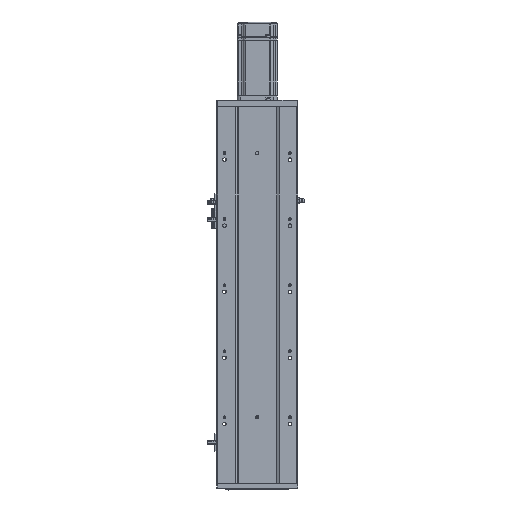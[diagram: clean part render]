
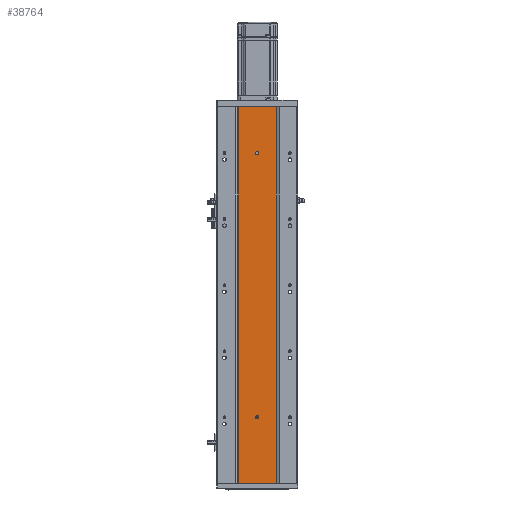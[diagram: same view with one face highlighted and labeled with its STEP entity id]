
A CAD part, front view. The second image highlights one B-rep face of the part: STEP entity #38764.
In plain terms, the highlighted planar face has unit normal (0, -1, 0).
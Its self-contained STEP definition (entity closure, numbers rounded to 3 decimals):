
#1704 = VERTEX_POINT ( 'NONE', #43092 ) ;
#4300 = EDGE_CURVE ( 'NONE', #7911, #1704, #17610, .T. ) ;
#4858 = ORIENTED_EDGE ( 'NONE', *, *, #20964, .F. ) ;
#6358 = VERTEX_POINT ( 'NONE', #77055 ) ;
#6888 = EDGE_CURVE ( 'NONE', #55024, #6358, #25675, .T. ) ;
#7850 = DIRECTION ( 'NONE',  ( 0., 0., -1. ) ) ;
#7911 = VERTEX_POINT ( 'NONE', #61693 ) ;
#8142 = VERTEX_POINT ( 'NONE', #41784 ) ;
#8458 = VECTOR ( 'NONE', #52645, 1000. ) ;
#8958 = EDGE_LOOP ( 'NONE', ( #40996, #40334, #4858, #64754 ) ) ;
#9150 = LINE ( 'NONE', #66443, #37952 ) ;
#10202 = DIRECTION ( 'NONE',  ( -1., 0., 0. ) ) ;
#11526 = FACE_BOUND ( 'NONE', #70303, .T. ) ;
#12188 = CARTESIAN_POINT ( 'NONE',  ( 134.998, 50.307, 102.5 ) ) ;
#12816 = VERTEX_POINT ( 'NONE', #59966 ) ;
#13770 = CARTESIAN_POINT ( 'NONE',  ( 134.998, 50.307, 500. ) ) ;
#16361 = CARTESIAN_POINT ( 'NONE',  ( 105.998, 50.307, 570. ) ) ;
#17610 = LINE ( 'NONE', #16361, #18642 ) ;
#18642 = VECTOR ( 'NONE', #78012, 1000. ) ;
#20458 = AXIS2_PLACEMENT_3D ( 'NONE', #71896, #57862, #50452 ) ;
#20915 = DIRECTION ( 'NONE',  ( 0., 0., -1. ) ) ;
#20964 = EDGE_CURVE ( 'NONE', #7911, #12816, #9150, .T. ) ;
#21875 = CARTESIAN_POINT ( 'NONE',  ( 134.998, 50.307, 502.5 ) ) ;
#23384 = AXIS2_PLACEMENT_3D ( 'NONE', #76664, #34993, #63000 ) ;
#24361 = CARTESIAN_POINT ( 'NONE',  ( 0., 50.307, 0. ) ) ;
#24845 = AXIS2_PLACEMENT_3D ( 'NONE', #50700, #77816, #10202 ) ;
#25483 = EDGE_LOOP ( 'NONE', ( #54965, #27563 ) ) ;
#25675 = CIRCLE ( 'NONE', #20458, 2.5 ) ;
#25977 = CIRCLE ( 'NONE', #62230, 2.5 ) ;
#27563 = ORIENTED_EDGE ( 'NONE', *, *, #6888, .F. ) ;
#33336 = DIRECTION ( 'NONE',  ( 1., 0., 0. ) ) ;
#34958 = DIRECTION ( 'NONE',  ( 0., -1., 0. ) ) ;
#34993 = DIRECTION ( 'NONE',  ( 0., -1., 0. ) ) ;
#37320 = AXIS2_PLACEMENT_3D ( 'NONE', #13770, #61740, #20915 ) ;
#37952 = VECTOR ( 'NONE', #33336, 1000. ) ;
#38764 = ADVANCED_FACE ( 'NONE', ( #82957, #11526, #77576 ), #58737, .F. ) ;
#40334 = ORIENTED_EDGE ( 'NONE', *, *, #46777, .F. ) ;
#40996 = ORIENTED_EDGE ( 'NONE', *, *, #58922, .T. ) ;
#41784 = CARTESIAN_POINT ( 'NONE',  ( 163.998, 50.307, 0. ) ) ;
#43092 = CARTESIAN_POINT ( 'NONE',  ( 105.998, 50.307, 0. ) ) ;
#43785 = EDGE_CURVE ( 'NONE', #45671, #63380, #67640, .T. ) ;
#45520 = CARTESIAN_POINT ( 'NONE',  ( 163.998, 50.307, 570. ) ) ;
#45671 = VERTEX_POINT ( 'NONE', #85034 ) ;
#46777 = EDGE_CURVE ( 'NONE', #12816, #8142, #80931, .T. ) ;
#48574 = ORIENTED_EDGE ( 'NONE', *, *, #60596, .F. ) ;
#49737 = LINE ( 'NONE', #24361, #65740 ) ;
#50452 = DIRECTION ( 'NONE',  ( 0., 0., -1. ) ) ;
#50700 = CARTESIAN_POINT ( 'NONE',  ( 0., 50.307, 570. ) ) ;
#52645 = DIRECTION ( 'NONE',  ( 0., 0., -1. ) ) ;
#54266 = ORIENTED_EDGE ( 'NONE', *, *, #43785, .F. ) ;
#54965 = ORIENTED_EDGE ( 'NONE', *, *, #73262, .F. ) ;
#55024 = VERTEX_POINT ( 'NONE', #21875 ) ;
#57862 = DIRECTION ( 'NONE',  ( 0., -1., 0. ) ) ;
#58737 = PLANE ( 'NONE',  #24845 ) ;
#58922 = EDGE_CURVE ( 'NONE', #1704, #8142, #49737, .T. ) ;
#59966 = CARTESIAN_POINT ( 'NONE',  ( 163.998, 50.307, 570. ) ) ;
#60390 = DIRECTION ( 'NONE',  ( 1., 0., 0. ) ) ;
#60596 = EDGE_CURVE ( 'NONE', #63380, #45671, #25977, .T. ) ;
#60811 = CIRCLE ( 'NONE', #37320, 2.5 ) ;
#61693 = CARTESIAN_POINT ( 'NONE',  ( 105.998, 50.307, 570. ) ) ;
#61740 = DIRECTION ( 'NONE',  ( 0., -1., 0. ) ) ;
#62086 = CARTESIAN_POINT ( 'NONE',  ( 134.998, 50.307, 100. ) ) ;
#62230 = AXIS2_PLACEMENT_3D ( 'NONE', #62086, #34958, #7850 ) ;
#63000 = DIRECTION ( 'NONE',  ( 0., 0., -1. ) ) ;
#63380 = VERTEX_POINT ( 'NONE', #12188 ) ;
#64754 = ORIENTED_EDGE ( 'NONE', *, *, #4300, .T. ) ;
#65740 = VECTOR ( 'NONE', #60390, 1000. ) ;
#66443 = CARTESIAN_POINT ( 'NONE',  ( 0., 50.307, 570. ) ) ;
#67640 = CIRCLE ( 'NONE', #23384, 2.5 ) ;
#70303 = EDGE_LOOP ( 'NONE', ( #54266, #48574 ) ) ;
#71896 = CARTESIAN_POINT ( 'NONE',  ( 134.998, 50.307, 500. ) ) ;
#73262 = EDGE_CURVE ( 'NONE', #6358, #55024, #60811, .T. ) ;
#76664 = CARTESIAN_POINT ( 'NONE',  ( 134.998, 50.307, 100. ) ) ;
#77055 = CARTESIAN_POINT ( 'NONE',  ( 134.998, 50.307, 497.5 ) ) ;
#77576 = FACE_OUTER_BOUND ( 'NONE', #8958, .T. ) ;
#77816 = DIRECTION ( 'NONE',  ( 0., 1., 0. ) ) ;
#78012 = DIRECTION ( 'NONE',  ( 0., 0., -1. ) ) ;
#80931 = LINE ( 'NONE', #45520, #8458 ) ;
#82957 = FACE_BOUND ( 'NONE', #25483, .T. ) ;
#85034 = CARTESIAN_POINT ( 'NONE',  ( 134.998, 50.307, 97.5 ) ) ;
